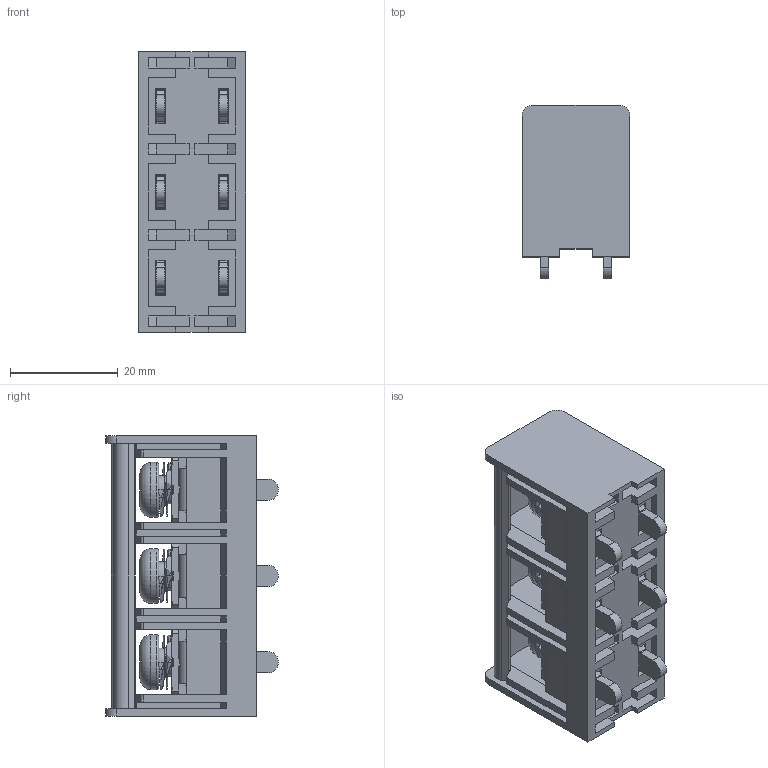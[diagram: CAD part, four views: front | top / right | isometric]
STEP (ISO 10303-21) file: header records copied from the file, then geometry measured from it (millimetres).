
FILE_DESCRIPTION((''),'2;1');
FILE_NAME('3PIN','2021-06-02T',('hanke'),(''),'CREO PARAMETRIC BY PTC INC, 2016260','CREO PARAMETRIC BY PTC INC, 2016260','');
FILE_SCHEMA(('CONFIG_CONTROL_DESIGN'));
Products named in the file (1): 3PIN
Bounding box: 20 x 32.1 x 52 mm (x, y, z)
Volume: 15594.1 mm3; surface area: 18461.5 mm2
Topology: 4 solids, 4 shells, 1356 faces, 4203 edges, 2758 vertices
Faces by surface type: plane 802, cylinder 362, bspline 96, cone 48, torus 48
Entity records: 109436 total; most frequent: CARTESIAN_POINT 72664, ORIENTED_EDGE 8394, DIRECTION 6857, EDGE_CURVE 4197, VERTEX_POINT 2758, VECTOR 2653, LINE 2653, AXIS2_PLACEMENT_3D 2102
